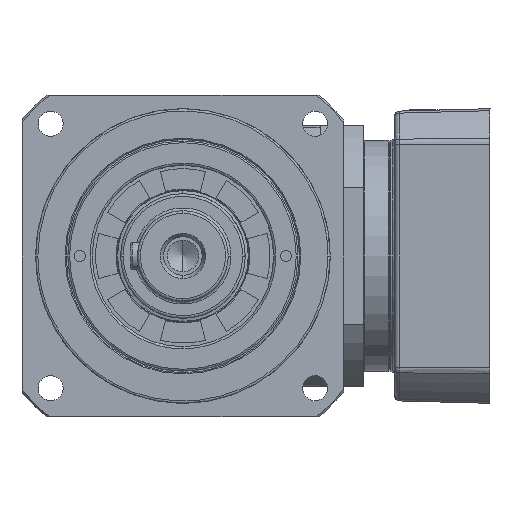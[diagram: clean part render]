
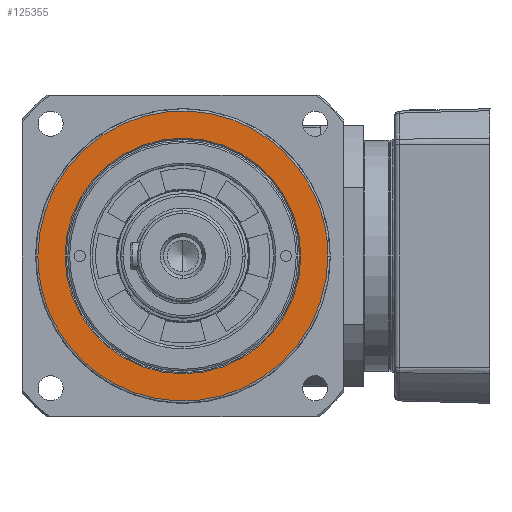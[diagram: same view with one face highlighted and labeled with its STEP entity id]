
A CAD part, left-side view. The second image highlights one B-rep face of the part: STEP entity #125355.
In plain terms, the highlighted planar face has unit normal (-1, 0, 0).
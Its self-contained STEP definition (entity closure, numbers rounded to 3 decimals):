
#546 = DIRECTION ( 'NONE',  ( -1., 0., 0. ) ) ;
#4227 = EDGE_CURVE ( 'NONE', #56332, #140085, #73492, .T. ) ;
#6561 = PLANE ( 'NONE',  #134593 ) ;
#8464 = ORIENTED_EDGE ( 'NONE', *, *, #140928, .F. ) ;
#12950 = CARTESIAN_POINT ( 'NONE',  ( -63.988, -59.686, 270. ) ) ;
#19662 = CARTESIAN_POINT ( 'NONE',  ( -63.988, 68.314, 14. ) ) ;
#23899 = CARTESIAN_POINT ( 'NONE',  ( -63.988, 68.314, 270. ) ) ;
#37078 = DIRECTION ( 'NONE',  ( -1., 0., 0. ) ) ;
#45398 = CARTESIAN_POINT ( 'NONE',  ( -63.988, 4.314, 194. ) ) ;
#55251 = DIRECTION ( 'NONE',  ( 0., 1., 0. ) ) ;
#56332 = VERTEX_POINT ( 'NONE', #121333 ) ;
#60134 = CIRCLE ( 'NONE', #153916, 52. ) ;
#67158 =( BOUNDED_CURVE ( )  B_SPLINE_CURVE ( 3, ( #70001, #120331, #19662, #133729 ),
 .UNSPECIFIED., .F., .F. ) 
 B_SPLINE_CURVE_WITH_KNOTS ( ( 4, 4 ),
 ( 0., 1. ),
 .UNSPECIFIED. ) 
 CURVE ( )  GEOMETRIC_REPRESENTATION_ITEM ( )  RATIONAL_B_SPLINE_CURVE ( ( 0.957, 0.319, 0.319, 0.957 ) ) 
 REPRESENTATION_ITEM ( '' )  );
#70001 = CARTESIAN_POINT ( 'NONE',  ( -63.988, -59.686, 142. ) ) ;
#70335 = FACE_OUTER_BOUND ( 'NONE', #109516, .T. ) ;
#70540 = ORIENTED_EDGE ( 'NONE', *, *, #4227, .F. ) ;
#73492 =( BOUNDED_CURVE ( )  B_SPLINE_CURVE ( 3, ( #127871, #23899, #12950, #90110 ),
 .UNSPECIFIED., .F., .F. ) 
 B_SPLINE_CURVE_WITH_KNOTS ( ( 4, 4 ),
 ( 0., 1. ),
 .UNSPECIFIED. ) 
 CURVE ( )  GEOMETRIC_REPRESENTATION_ITEM ( )  RATIONAL_B_SPLINE_CURVE ( ( 0.957, 0.319, 0.319, 0.957 ) ) 
 REPRESENTATION_ITEM ( '' )  );
#78773 = EDGE_CURVE ( 'NONE', #164882, #96479, #121882, .T. ) ;
#82907 = FACE_BOUND ( 'NONE', #90766, .T. ) ;
#90110 = CARTESIAN_POINT ( 'NONE',  ( -63.988, -59.686, 142. ) ) ;
#90766 = EDGE_LOOP ( 'NONE', ( #104172, #8464 ) ) ;
#95773 = ORIENTED_EDGE ( 'NONE', *, *, #146723, .F. ) ;
#96317 = CARTESIAN_POINT ( 'NONE',  ( -63.988, -60.454, 77.232 ) ) ;
#96479 = VERTEX_POINT ( 'NONE', #110582 ) ;
#98555 = CARTESIAN_POINT ( 'NONE',  ( -63.988, -59.686, 142. ) ) ;
#104172 = ORIENTED_EDGE ( 'NONE', *, *, #78773, .F. ) ;
#109516 = EDGE_LOOP ( 'NONE', ( #95773, #70540 ) ) ;
#110582 = CARTESIAN_POINT ( 'NONE',  ( -63.988, 4.314, 90. ) ) ;
#113828 = CARTESIAN_POINT ( 'NONE',  ( -63.988, 4.314, 142. ) ) ;
#120331 = CARTESIAN_POINT ( 'NONE',  ( -63.988, -59.686, 14. ) ) ;
#121333 = CARTESIAN_POINT ( 'NONE',  ( -63.988, 68.314, 142. ) ) ;
#121882 = CIRCLE ( 'NONE', #164785, 52. ) ;
#125355 = ADVANCED_FACE ( 'NONE', ( #82907, #70335 ), #6561, .F. ) ;
#127871 = CARTESIAN_POINT ( 'NONE',  ( -63.988, 68.314, 142. ) ) ;
#133729 = CARTESIAN_POINT ( 'NONE',  ( -63.988, 68.314, 142. ) ) ;
#134593 = AXIS2_PLACEMENT_3D ( 'NONE', #96317, #147509, #55251 ) ;
#140085 = VERTEX_POINT ( 'NONE', #98555 ) ;
#140268 = DIRECTION ( 'NONE',  ( 0., 0., 1. ) ) ;
#140928 = EDGE_CURVE ( 'NONE', #96479, #164882, #60134, .T. ) ;
#146723 = EDGE_CURVE ( 'NONE', #140085, #56332, #67158, .T. ) ;
#147509 = DIRECTION ( 'NONE',  ( 1., 0., 0. ) ) ;
#152028 = CARTESIAN_POINT ( 'NONE',  ( -63.988, 4.314, 142. ) ) ;
#153916 = AXIS2_PLACEMENT_3D ( 'NONE', #152028, #37078, #140268 ) ;
#164785 = AXIS2_PLACEMENT_3D ( 'NONE', #113828, #546, #165871 ) ;
#164882 = VERTEX_POINT ( 'NONE', #45398 ) ;
#165871 = DIRECTION ( 'NONE',  ( 0., 0., 1. ) ) ;
